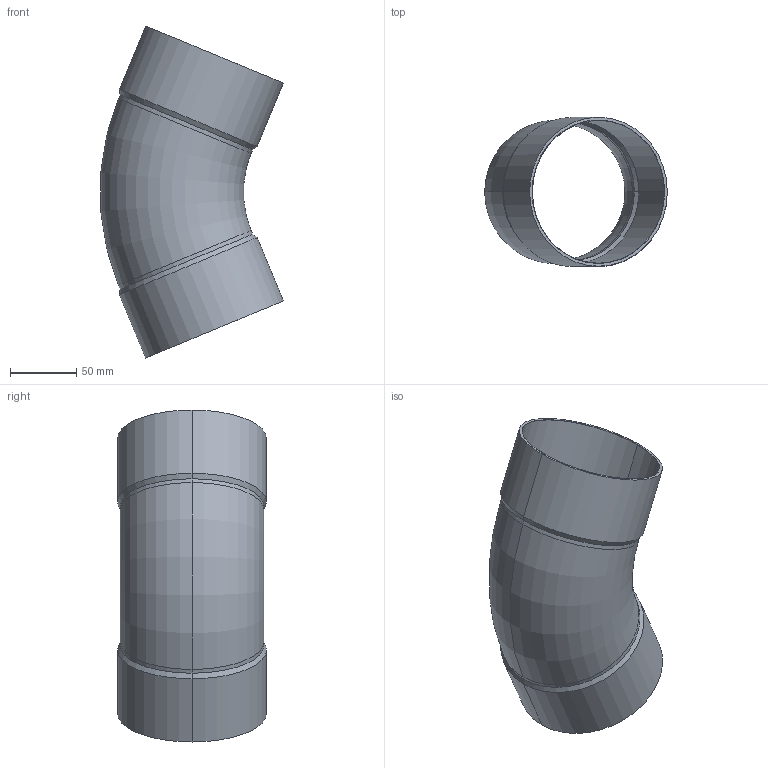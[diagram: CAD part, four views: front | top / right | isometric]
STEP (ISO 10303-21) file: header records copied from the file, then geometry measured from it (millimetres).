
FILE_DESCRIPTION((''),'2;1');
FILE_NAME('P:\Bouwmaten\z-maattekeningen 3D\5000\5041\15041108.stp','2005-10-13T13:13:54',('Kris'),(''),'Autodesk Inventor 8','Autodesk Inventor 8','');
FILE_SCHEMA(('AUTOMOTIVE_DESIGN { 1 0 10303 214 1 1 1 1 }'));
Length unit declared in the file: millimetre
Products named in the file (1): 15041108
Bounding box: 137.45 x 112.2 x 249.89 mm (x, y, z)
Volume: 156357 mm3; surface area: 150541.3 mm2
Topology: 1 solids, 1 shells, 34 faces, 72 edges, 40 vertices
Faces by surface type: cylinder 12, bspline 9, cone 8, torus 4, plane 1
Entity records: 1039 total; most frequent: CARTESIAN_POINT 286, DIRECTION 168, ORIENTED_EDGE 144, EDGE_CURVE 72, AXIS2_PLACEMENT_3D 70, CIRCLE 44, VERTEX_POINT 40, EDGE_LOOP 36
